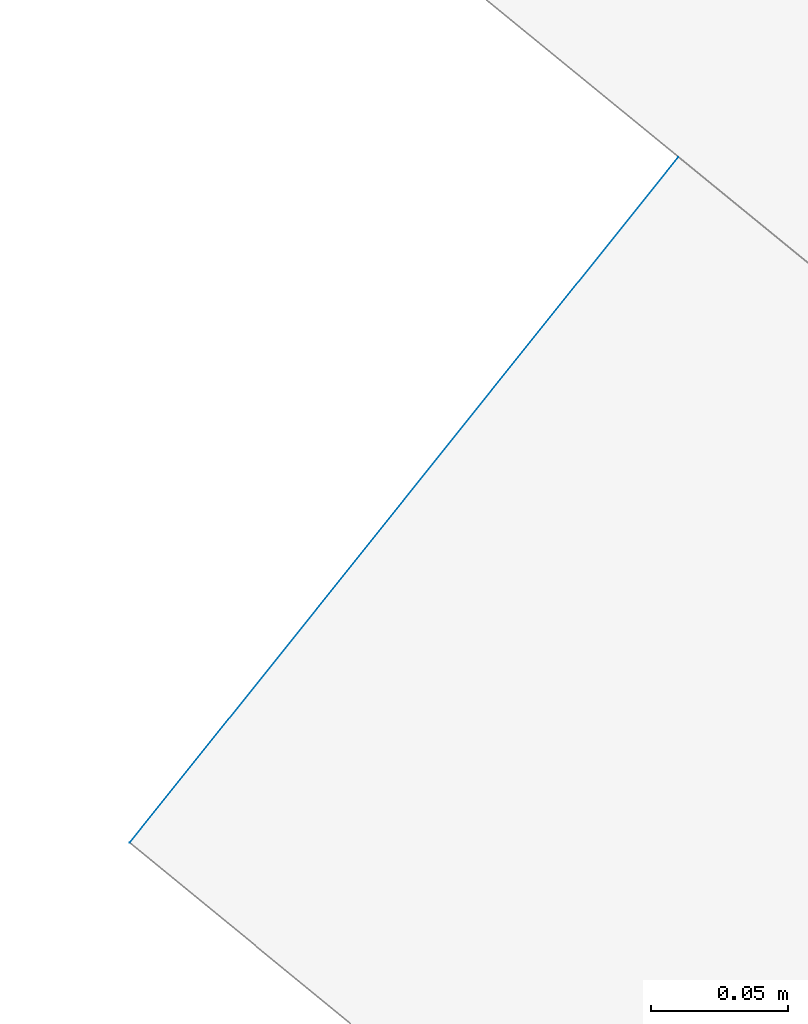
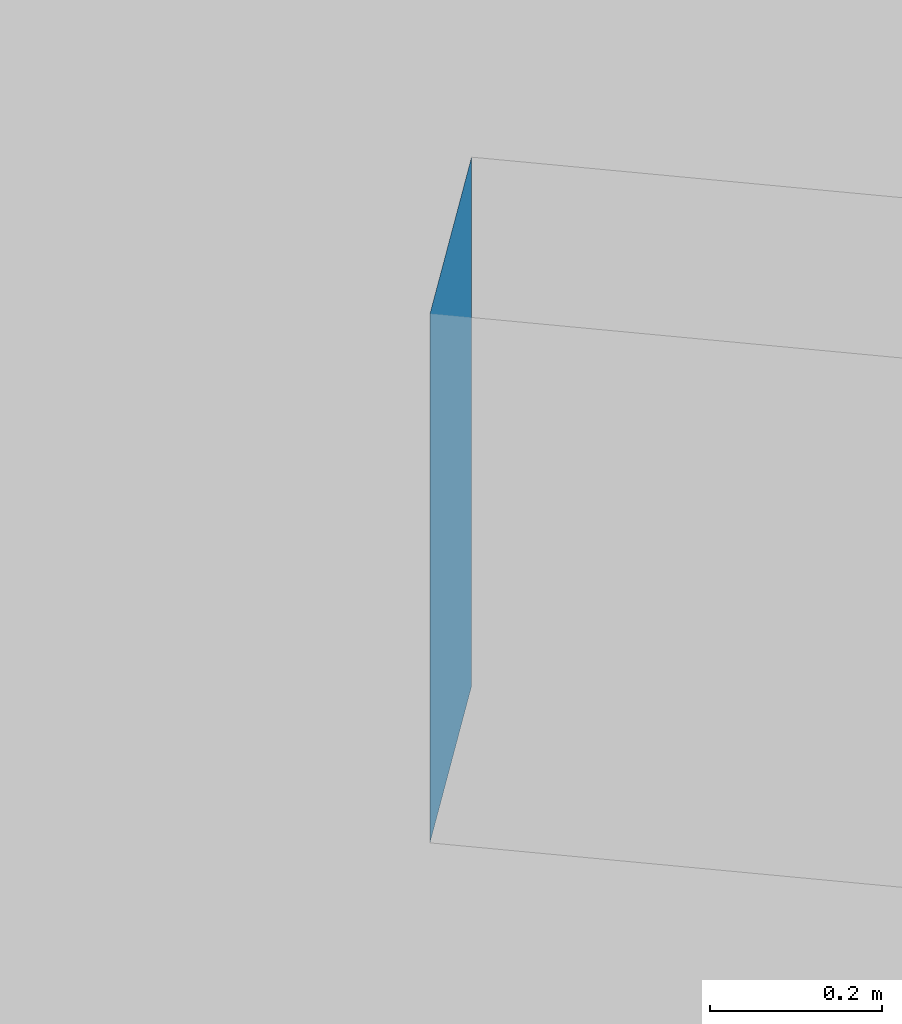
# Not in any storey, part 122 of 136: 2 walls.
"""IFC2X3 building model written with IfcOpenShell, lengths in metres."""

import ifcopenshell
import ifcopenshell.guid

model = None  # the IFC model being written
_history = None  # IfcOwnerHistory: only IFC2X3 demands one
_inside = {}  # id of a spatial element -> (the spatial element, [elements in it])
_under = {}  # id of a project, library or spatial element -> (it, [spatial elements below it])
_declared = {}  # id of a project -> (the project, [libraries it declares])
_typed = {}  # id of a type object -> (the type object, [elements of that type])
_made_of = {}  # id of a material, layer set ... -> (it, [elements and type objects made of it])


def new_model(schema):
    """Start an empty IFC model of exactly this schema.

    Asked for "IFC4X3", IfcOpenShell would pick the latest addendum, in which some entities
    have other attributes; the version numbers below select the first issue.
    IFC2X3 requires an IfcOwnerHistory on every rooted entity: one is made here for all.
    """
    global model, _history
    if schema == "IFC4X3":
        model = ifcopenshell.file(schema_version=(4, 3, 0, 0))
    else:
        model = ifcopenshell.file(schema=schema)
    _inside.clear()
    _under.clear()
    _declared.clear()
    _typed.clear()
    _made_of.clear()
    _history = None
    if model.schema == "IFC2X3":
        org = make("IfcOrganization", Name="unknown")
        user = make(
            "IfcPersonAndOrganization",
            ThePerson=make("IfcPerson", FamilyName="unknown"),
            TheOrganization=org,
        )
        app = make(
            "IfcApplication",
            ApplicationDeveloper=org,
            Version="unknown",
            ApplicationFullName="unknown",
            ApplicationIdentifier="unknown",
        )
        _history = make(
            "IfcOwnerHistory",
            OwningUser=user,
            OwningApplication=app,
            ChangeAction="ADDED",
            CreationDate=0,
        )
    return model


def make(cls, **values):
    """One entity of the class cls with the attributes given. An attribute that is None is left unset."""
    return model.create_entity(
        cls, **{name: value for name, value in values.items() if value is not None}
    )


def entity(cls, *values):
    """Any entity or typed value of the class cls, its attributes in the order of the schema. None: left unset."""
    e = model.create_entity(cls)
    for i, value in enumerate(values):
        if value is not None:
            e[i] = value
    return e


def rooted(cls, **values):
    """An entity with a GlobalId (a new one), such as an element, a storey or a relation."""
    return make(cls, GlobalId=ifcopenshell.guid.new(), OwnerHistory=_history, **values)


def si_unit(unit_type, name, prefix=None):
    """IfcSIUnit, for example si_unit("LENGTHUNIT", "METRE", prefix="MILLI")."""
    return make("IfcSIUnit", UnitType=unit_type, Prefix=prefix, Name=name)


def converted_unit(unit_type, name, factor, base, dimensions=None, offset=None):
    """IfcConversionBasedUnit, such as the inch: factor (a typed value) times the base unit."""
    return make(
        "IfcConversionBasedUnit"
        if offset is None
        else "IfcConversionBasedUnitWithOffset",
        ConversionOffset=offset,
        Dimensions=None
        if dimensions is None
        else entity("IfcDimensionalExponents", *dimensions),
        UnitType=unit_type,
        Name=name,
        ConversionFactor=make(
            "IfcMeasureWithUnit", ValueComponent=factor, UnitComponent=base
        ),
    )


def assignment(units):
    """IfcUnitAssignment: the units of a project."""
    return None if units is None else make("IfcUnitAssignment", Units=units)


def point(xyz):
    """IfcCartesianPoint."""
    return None if xyz is None else make("IfcCartesianPoint", Coordinates=xyz)


def direction(xyz):
    """IfcDirection."""
    return None if xyz is None else make("IfcDirection", DirectionRatios=xyz)


def frame(location, z_axis=None, x_axis=None):
    """IfcAxis2Placement3D, a coordinate frame: its origin and axes. An axis left out is left unset."""
    return make(
        "IfcAxis2Placement3D",
        Location=point(location),
        Axis=direction(z_axis),
        RefDirection=direction(x_axis),
    )


def origin():
    """The frame at (0, 0, 0) with its axes left unset."""
    return frame((0.0, 0.0, 0.0))


def place(relative_to, where):
    """IfcLocalPlacement: puts the frame where relative to a parent placement (None: the world)."""
    return make(
        "IfcLocalPlacement", PlacementRelTo=relative_to, RelativePlacement=where
    )


def context(
    kind, dimensions, precision=None, world=None, true_north=None, identifier=None
):
    """IfcGeometricRepresentationContext, for example the 3D "Model" context."""
    return make(
        "IfcGeometricRepresentationContext",
        ContextIdentifier=identifier,
        ContextType=kind,
        CoordinateSpaceDimension=dimensions,
        Precision=precision,
        WorldCoordinateSystem=world,
        TrueNorth=true_north,
    )


def subcontext(parent, identifier, kind, view, scale=None):
    """IfcGeometricRepresentationSubContext, for example "Body" below "Model"."""
    return make(
        "IfcGeometricRepresentationSubContext",
        ContextIdentifier=identifier,
        ContextType=kind,
        ParentContext=parent,
        TargetScale=scale,
        TargetView=view,
    )


def project(units=None, contexts=None):
    """IfcProject with its units and contexts."""
    return rooted(
        "IfcProject",
        Name="project",
        RepresentationContexts=contexts,
        UnitsInContext=assignment(units),
    )


def spatial(cls, under=None, at=None, **own):
    """A site, building, storey or space (cls), placed at a placement, below another one or the project."""
    s = rooted(cls, ObjectPlacement=at, **own)
    if under is not None:
        _under.setdefault(under.id(), (under, []))[1].append(s)
    return s


def faces_of(points, faces, orient=None, outer=None):
    """IfcFace entities. A face is a list of loops; a loop is a list of indices into points, from 0.

    orient and outer hold one flag for each loop. By default every Orientation is true, the
    first loop of a face is its IfcFaceOuterBound and the others are IfcFaceBound.
    """
    made = []
    for i, loops in enumerate(faces):
        bounds = []
        for j, loop in enumerate(loops):
            is_outer = j == 0 if outer is None else outer[i][j]
            bounds.append(
                make(
                    "IfcFaceOuterBound" if is_outer else "IfcFaceBound",
                    Bound=make("IfcPolyLoop", Polygon=[points[k] for k in loop]),
                    Orientation=True if orient is None else orient[i][j],
                )
            )
        made.append(make("IfcFace", Bounds=bounds))
    return made


def face_set(faces, orient=None, outer=None):
    """The faces of one IfcConnectedFaceSet. surface_model builds it on its shared points."""
    return ("IfcConnectedFaceSet", faces, orient, outer)


def surface_model(cls, points, shells):
    """IfcFaceBasedSurfaceModel or IfcShellBasedSurfaceModel (cls): surfaces that need not close."""
    shared = [point(p) for p in points]
    made = [make(c, CfsFaces=faces_of(shared, fs, o, b)) for c, fs, o, b in shells]
    if cls == "IfcFaceBasedSurfaceModel":
        return make(cls, FbsmFaces=made)
    return make(cls, SbsmBoundary=made)


def shape(context_of_items, identifier, shape_type, items):
    """IfcShapeRepresentation: the items that make up one representation, for example the "Body"."""
    return make(
        "IfcShapeRepresentation",
        ContextOfItems=context_of_items,
        RepresentationIdentifier=identifier,
        RepresentationType=shape_type,
        Items=items,
    )


def made_of(thing, what):
    """Note that an element or type object is made of a material, layer set ...; save() writes the relation."""
    if what is not None:
        _made_of.setdefault(what.id(), (what, []))[1].append(thing)
    return thing


def element(
    cls,
    number,
    at=None,
    inside=None,
    cuts=None,
    type_object=None,
    material=None,
    context=None,
    identifier="Body",
    shape_type=None,
    held_by="IfcProductDefinitionShape",
    body=None,
    shapes=None,
    **own,
):
    """One element of the class cls, such as IfcWall. Its Tag is "e" and its number.

    at: its placement. inside: the storey or other place that contains it. cuts: it is an
    opening in that element (IfcRelVoidsElement). A single representation is given by context,
    identifier, shape_type and body (its items); several are given by shapes. held_by: the class
    of the entity that holds the representations. save() writes the other relations.
    """
    e = rooted(cls, Tag="e%d" % number, ObjectPlacement=at, **own)
    if body is not None:
        shapes = [shape(context, identifier, shape_type, body)]
    if shapes is not None:
        e.Representation = make(held_by, Representations=shapes)
    if inside is not None:
        _inside.setdefault(inside.id(), (inside, []))[1].append(e)
    if cuts is not None:
        rooted(
            "IfcRelVoidsElement", RelatingBuildingElement=cuts, RelatedOpeningElement=e
        )
    if type_object is not None:
        _typed.setdefault(type_object.id(), (type_object, []))[1].append(e)
    return made_of(e, material)


def aggregate(whole, parts):
    """IfcRelAggregates: a whole, such as a stair, and the parts it consists of."""
    return rooted("IfcRelAggregates", RelatingObject=whole, RelatedObjects=parts)


def save(model, path):
    """Write the relations noted so far, then the file.

    IfcRelAggregates (storeys below a building ...), IfcRelContainedInSpatialStructure (elements
    in a storey), IfcRelDefinesByType, IfcRelAssociatesMaterial and IfcRelDeclares: one each for
    every whole, place, type object, material and project.
    """
    for whole, parts in _under.values():
        aggregate(whole, parts)
    for where, things in _inside.values():
        rooted(
            "IfcRelContainedInSpatialStructure",
            RelatedElements=things,
            RelatingStructure=where,
        )
    for kind, things in _typed.values():
        rooted("IfcRelDefinesByType", RelatedObjects=things, RelatingType=kind)
    for what, things in _made_of.values():
        rooted("IfcRelAssociatesMaterial", RelatedObjects=things, RelatingMaterial=what)
    for by, libraries in _declared.values():
        rooted("IfcRelDeclares", RelatingContext=by, RelatedDefinitions=libraries)
    model.write(path)


model = new_model("IFC2X3")

# Units and contexts
model_context = context("Model", 3, precision=1e-05, world=origin())
body_context = subcontext(model_context, "Body", "Model", "MODEL_VIEW")
ifc_project = project(units=[converted_unit("PLANEANGLEUNIT", "DEGREE", entity("IfcRatioMeasure", 0.0174532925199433), si_unit("PLANEANGLEUNIT", "RADIAN"), dimensions=[0, 0, 0, 0, 0, 0, 0]), si_unit("AREAUNIT", "SQUARE_METRE"), si_unit("LENGTHUNIT", "METRE")], contexts=[model_context])

# Site, building
site_placement = place(None, origin())
site = spatial("IfcSite", under=ifc_project, at=site_placement, Name="_site", CompositionType="ELEMENT")
building_placement = place(site_placement, origin())
building = spatial("IfcBuilding", under=site, at=building_placement, Name="_building", CompositionType="ELEMENT")

# Walls
for number, where, name in (
    (1, (0.0, 0.0, 0.0), "Wall"),
    (2, (0.0, 0.0, 0.0), "Wall"),
):
    element("IfcWall", number, at=place(building_placement, frame(where)), inside=building, Name=name, context=body_context, shape_type="SurfaceModel", body=[
        surface_model("IfcFaceBasedSurfaceModel", [(163.3, 123.28, 42.22), (163.5, 123.53, 42.22), (163.5, 123.53, 42.97), (163.3, 123.28, 42.97)], [face_set([[[0, 1, 2, 3]]])]),
    ])

save(model, "model.ifc")
